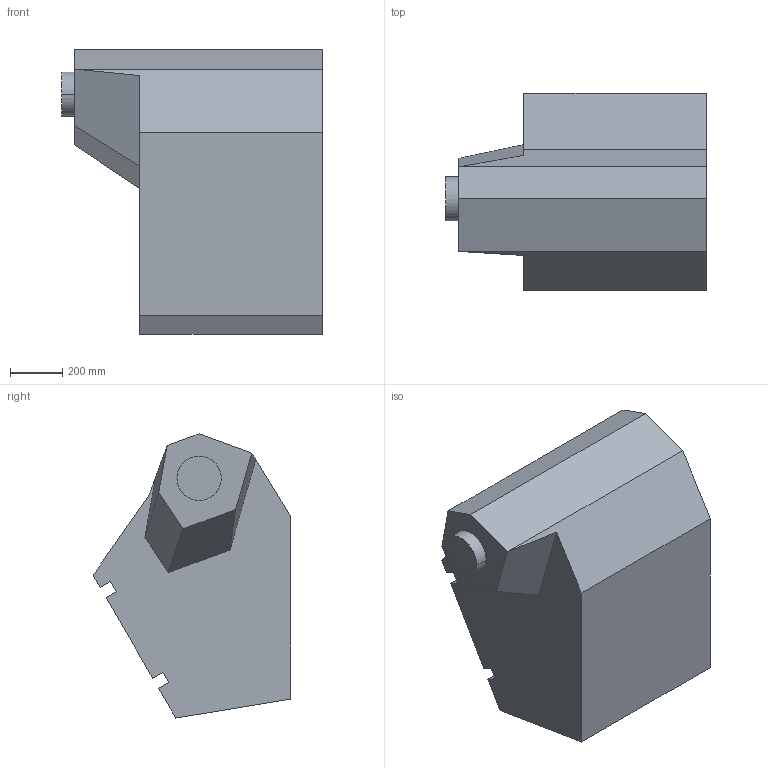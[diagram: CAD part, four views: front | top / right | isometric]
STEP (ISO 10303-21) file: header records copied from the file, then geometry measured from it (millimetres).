
FILE_DESCRIPTION(('CATIA V5 STEP Exchange'),'2;1');
FILE_NAME('D:\Clients_NCS8\Cenit-AG\Import\OKUMA250\Tailstock.stp','2005-03-09T16:55:01+00:00',('none'),('none'),'CATIA Version 5 Release 14 (IN-10)','CATIA V5 STEP AP203','none');
FILE_SCHEMA(('CONFIG_CONTROL_DESIGN'));
Length unit declared in the file: millimetre
Products named in the file (1): okuma_dr-fr
Assembly tree (1 placements, depth 2):
  okuma_dr-fr
    #56
Bounding box: 1000 x 758.49 x 1091.27 mm (x, y, z)
Volume: 443413629.8 mm3; surface area: 3747800 mm2
Topology: 2 solids, 2 shells, 27 faces, 73 edges, 51 vertices
Faces by surface type: plane 25, cylinder 2
Entity records: 882 total; most frequent: CARTESIAN_POINT 152, ORIENTED_EDGE 146, DIRECTION 120, EDGE_CURVE 73, VECTOR 66, LINE 66, VERTEX_POINT 50, AXIS2_PLACEMENT_3D 29
